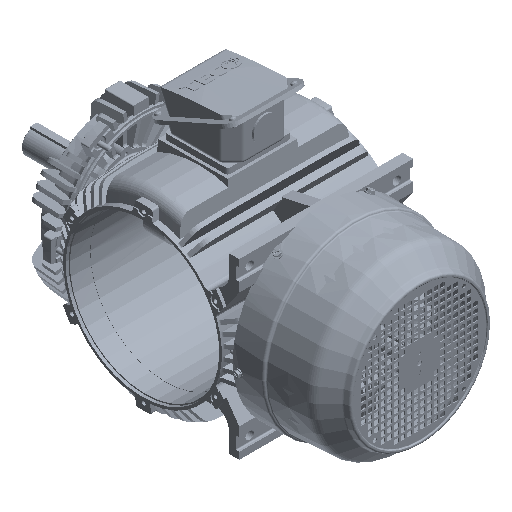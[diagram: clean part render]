
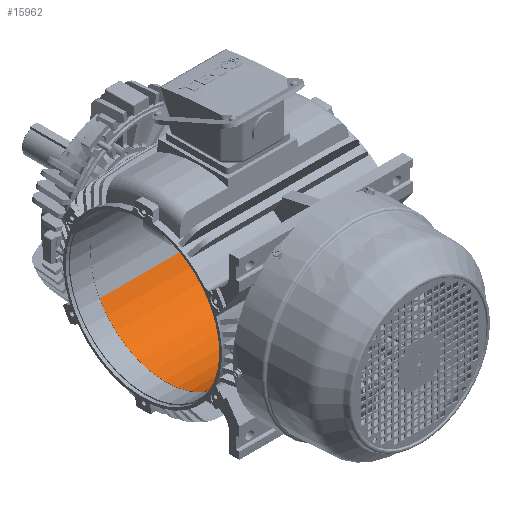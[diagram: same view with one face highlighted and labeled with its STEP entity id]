
A CAD part, isometric view. The second image highlights one B-rep face of the part: STEP entity #15962.
In plain terms, the highlighted cylindrical face has radius 130 mm (diameter 260 mm), a partial arc.
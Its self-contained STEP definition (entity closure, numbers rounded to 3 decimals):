
#15881=CARTESIAN_POINT('Axis2P3D Location',(0.,0.,0.)) ;
#15886=CARTESIAN_POINT('Line Origine',(0.,-114.086,62.325)) ;
#15890=CARTESIAN_POINT('Vertex',(-117.,-114.086,62.325)) ;
#15892=CARTESIAN_POINT('Vertex',(117.,-114.086,62.325)) ;
#15895=CARTESIAN_POINT('Axis2P3D Location',(117.,0.,0.)) ;
#15899=CARTESIAN_POINT('Vertex',(117.,114.086,-62.325)) ;
#15902=CARTESIAN_POINT('Line Origine',(0.,114.086,-62.325)) ;
#15906=CARTESIAN_POINT('Vertex',(-117.,114.086,-62.325)) ;
#15909=CARTESIAN_POINT('Axis2P3D Location',(-117.,0.,0.)) ;
#15921=CARTESIAN_POINT('Control Point',(11.842,-128.18,21.676)) ;
#15922=CARTESIAN_POINT('Control Point',(15.407,-128.509,19.729)) ;
#15923=CARTESIAN_POINT('Control Point',(18.566,-128.924,17.051)) ;
#15924=CARTESIAN_POINT('Control Point',(21.125,-129.348,13.758)) ;
#15925=CARTESIAN_POINT('Control Point',(24.665,-129.982,6.47)) ;
#15926=CARTESIAN_POINT('Control Point',(25.112,-130.082,-1.628)) ;
#15927=CARTESIAN_POINT('Control Point',(24.538,-129.965,-5.572)) ;
#15928=CARTESIAN_POINT('Control Point',(21.82,-129.444,-13.184)) ;
#15929=CARTESIAN_POINT('Control Point',(16.385,-128.631,-19.154)) ;
#15930=CARTESIAN_POINT('Control Point',(13.008,-128.213,-21.593)) ;
#15931=CARTESIAN_POINT('Control Point',(5.93,-127.634,-24.731)) ;
#15932=CARTESIAN_POINT('Control Point',(-1.787,-127.567,-25.02)) ;
#15933=CARTESIAN_POINT('Control Point',(-5.36,-127.674,-24.503)) ;
#15934=CARTESIAN_POINT('Control Point',(-8.754,-127.895,-23.363)) ;
#15935=CARTESIAN_POINT('Control Point',(-11.842,-128.18,-21.676)) ;
#15936=CARTESIAN_POINT('Vertex',(11.842,-128.18,21.676)) ;
#15938=CARTESIAN_POINT('Vertex',(-11.842,-128.18,-21.676)) ;
#15942=CARTESIAN_POINT('Control Point',(-11.842,-128.18,-21.676)) ;
#15943=CARTESIAN_POINT('Control Point',(-15.407,-128.509,-19.729)) ;
#15944=CARTESIAN_POINT('Control Point',(-18.566,-128.924,-17.051)) ;
#15945=CARTESIAN_POINT('Control Point',(-21.125,-129.348,-13.758)) ;
#15946=CARTESIAN_POINT('Control Point',(-24.665,-129.982,-6.47)) ;
#15947=CARTESIAN_POINT('Control Point',(-25.112,-130.082,1.628)) ;
#15948=CARTESIAN_POINT('Control Point',(-24.538,-129.965,5.572)) ;
#15949=CARTESIAN_POINT('Control Point',(-21.82,-129.444,13.184)) ;
#15950=CARTESIAN_POINT('Control Point',(-16.385,-128.631,19.154)) ;
#15951=CARTESIAN_POINT('Control Point',(-13.008,-128.213,21.593)) ;
#15952=CARTESIAN_POINT('Control Point',(-5.93,-127.634,24.731)) ;
#15953=CARTESIAN_POINT('Control Point',(1.787,-127.567,25.02)) ;
#15954=CARTESIAN_POINT('Control Point',(5.36,-127.674,24.503)) ;
#15955=CARTESIAN_POINT('Control Point',(8.754,-127.895,23.363)) ;
#15956=CARTESIAN_POINT('Control Point',(11.842,-128.18,21.676)) ;
#15882=DIRECTION('Axis2P3D Direction',(-1.,0.,0.)) ;
#15883=DIRECTION('Axis2P3D XDirection',(0.,0.878,-0.479)) ;
#15887=DIRECTION('Vector Direction',(-1.,0.,0.)) ;
#15896=DIRECTION('Axis2P3D Direction',(-1.,0.,0.)) ;
#15903=DIRECTION('Vector Direction',(-1.,0.,0.)) ;
#15910=DIRECTION('Axis2P3D Direction',(-1.,0.,0.)) ;
#15884=AXIS2_PLACEMENT_3D('Cylinder Axis2P3D',#15881,#15882,#15883) ;
#15897=AXIS2_PLACEMENT_3D('Circle Axis2P3D',#15895,#15896,$) ;
#15911=AXIS2_PLACEMENT_3D('Circle Axis2P3D',#15909,#15910,$) ;
#15915=ORIENTED_EDGE('',*,*,#15894,.T.) ;
#15916=ORIENTED_EDGE('',*,*,#15901,.F.) ;
#15917=ORIENTED_EDGE('',*,*,#15908,.F.) ;
#15918=ORIENTED_EDGE('',*,*,#15913,.T.) ;
#15959=ORIENTED_EDGE('',*,*,#15940,.F.) ;
#15960=ORIENTED_EDGE('',*,*,#15957,.F.) ;
#15961=FACE_BOUND('',#15958,.T.) ;
#15888=VECTOR('Line Direction',#15887,1.) ;
#15904=VECTOR('Line Direction',#15903,1.) ;
#15962=ADVANCED_FACE('\X2\51434EF6672C9AD4\X0\',(#15919,#15961),#15885,.F.) ;
#15920=B_SPLINE_CURVE_WITH_KNOTS('',5,(#15921,#15922,#15923,#15924,#15925,#15926,#15927,#15928,#15929,#15930,#15931,#15932,#15933,#15934,#15935),.UNSPECIFIED.,.F.,.U.,(6,3,3,3,6),(0.,28.82,56.251,85.025,109.99),.UNSPECIFIED.) ;
#15941=B_SPLINE_CURVE_WITH_KNOTS('',5,(#15942,#15943,#15944,#15945,#15946,#15947,#15948,#15949,#15950,#15951,#15952,#15953,#15954,#15955,#15956),.UNSPECIFIED.,.F.,.U.,(6,3,3,3,6),(0.,28.82,56.251,85.025,109.99),.UNSPECIFIED.) ;
#15898=CIRCLE('generated circle',#15897,130.) ;
#15912=CIRCLE('generated circle',#15911,130.) ;
#15885=CYLINDRICAL_SURFACE('generated cylinder',#15884,130.) ;
#15894=EDGE_CURVE('',#15891,#15893,#15889,.F.) ;
#15901=EDGE_CURVE('',#15900,#15893,#15898,.T.) ;
#15908=EDGE_CURVE('',#15907,#15900,#15905,.F.) ;
#15913=EDGE_CURVE('',#15907,#15891,#15912,.T.) ;
#15940=EDGE_CURVE('',#15937,#15939,#15920,.T.) ;
#15957=EDGE_CURVE('',#15939,#15937,#15941,.T.) ;
#15914=EDGE_LOOP('',(#15915,#15916,#15917,#15918)) ;
#15958=EDGE_LOOP('',(#15959,#15960)) ;
#15919=FACE_OUTER_BOUND('',#15914,.T.) ;
#15889=LINE('Line',#15886,#15888) ;
#15905=LINE('Line',#15902,#15904) ;
#15891=VERTEX_POINT('',#15890) ;
#15893=VERTEX_POINT('',#15892) ;
#15900=VERTEX_POINT('',#15899) ;
#15907=VERTEX_POINT('',#15906) ;
#15937=VERTEX_POINT('',#15936) ;
#15939=VERTEX_POINT('',#15938) ;
